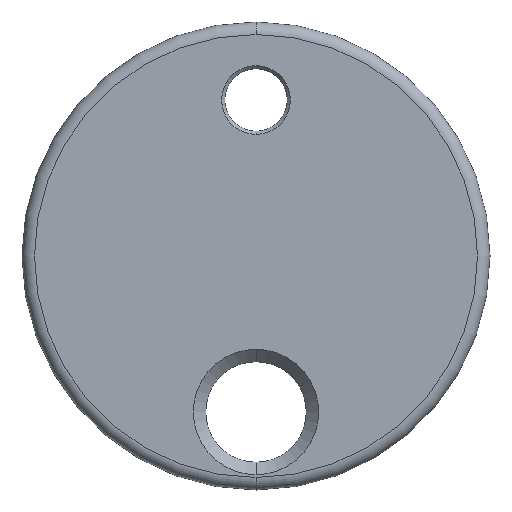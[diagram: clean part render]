
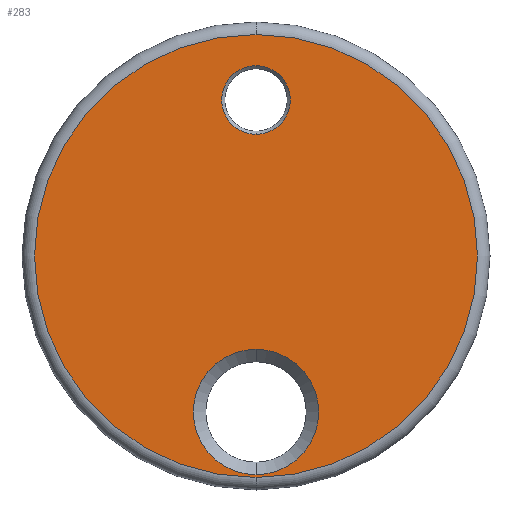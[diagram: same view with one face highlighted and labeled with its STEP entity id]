
A CAD part, front view. The second image highlights one B-rep face of the part: STEP entity #283.
In plain terms, the highlighted planar face has unit normal (0, -1, 0).
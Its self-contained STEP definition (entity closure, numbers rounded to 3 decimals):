
#10 = VERTEX_POINT ( 'NONE', #55 ) ;
#15 = AXIS2_PLACEMENT_3D ( 'NONE', #138, #474, #190 ) ;
#20 = CARTESIAN_POINT ( 'NONE',  ( 0., 0., -25. ) ) ;
#25 = AXIS2_PLACEMENT_3D ( 'NONE', #410, #69, #415 ) ;
#39 = DIRECTION ( 'NONE',  ( 0., -1., 0. ) ) ;
#43 = VERTEX_POINT ( 'NONE', #115 ) ;
#47 = EDGE_LOOP ( 'NONE', ( #403, #172 ) ) ;
#55 = CARTESIAN_POINT ( 'NONE',  ( 0., 0., -14.95 ) ) ;
#69 = DIRECTION ( 'NONE',  ( 0., 1., 0. ) ) ;
#70 = CARTESIAN_POINT ( 'NONE',  ( 0., 0., 35.5 ) ) ;
#86 = FACE_BOUND ( 'NONE', #226, .T. ) ;
#92 = CIRCLE ( 'NONE', #117, 5.5 ) ;
#96 = EDGE_LOOP ( 'NONE', ( #424, #309 ) ) ;
#115 = CARTESIAN_POINT ( 'NONE',  ( 0., 0., 19.5 ) ) ;
#117 = AXIS2_PLACEMENT_3D ( 'NONE', #340, #39, #385 ) ;
#138 = CARTESIAN_POINT ( 'NONE',  ( 0., 0., 0. ) ) ;
#142 = CARTESIAN_POINT ( 'NONE',  ( 0., 0., 25. ) ) ;
#150 = AXIS2_PLACEMENT_3D ( 'NONE', #142, #481, #197 ) ;
#172 = ORIENTED_EDGE ( 'NONE', *, *, #398, .T. ) ;
#190 = DIRECTION ( 'NONE',  ( 0., 0., 1. ) ) ;
#191 = EDGE_CURVE ( 'NONE', #321, #10, #613, .T. ) ;
#192 = CARTESIAN_POINT ( 'NONE',  ( 0., 0., 30.5 ) ) ;
#193 = CARTESIAN_POINT ( 'NONE',  ( 0., 0., -35.5 ) ) ;
#197 = DIRECTION ( 'NONE',  ( 0., 0., -1. ) ) ;
#226 = EDGE_LOOP ( 'NONE', ( #609, #399 ) ) ;
#235 = VERTEX_POINT ( 'NONE', #70 ) ;
#242 = FACE_OUTER_BOUND ( 'NONE', #47, .T. ) ;
#251 = CIRCLE ( 'NONE', #15, 35.5 ) ;
#278 = CARTESIAN_POINT ( 'NONE',  ( 0., 0., -35.05 ) ) ;
#282 = CARTESIAN_POINT ( 'NONE',  ( 0., 0., -25. ) ) ;
#283 = ADVANCED_FACE ( 'NONE', ( #86, #242, #337 ), #365, .F. ) ;
#309 = ORIENTED_EDGE ( 'NONE', *, *, #561, .F. ) ;
#311 = DIRECTION ( 'NONE',  ( 0., -1., 0. ) ) ;
#320 = CIRCLE ( 'NONE', #325, 35.5 ) ;
#321 = VERTEX_POINT ( 'NONE', #278 ) ;
#325 = AXIS2_PLACEMENT_3D ( 'NONE', #525, #311, #425 ) ;
#326 = DIRECTION ( 'NONE',  ( 0., 0., 1. ) ) ;
#337 = FACE_BOUND ( 'NONE', #96, .T. ) ;
#340 = CARTESIAN_POINT ( 'NONE',  ( 0., 0., 25. ) ) ;
#365 = PLANE ( 'NONE',  #25 ) ;
#385 = DIRECTION ( 'NONE',  ( 0., 0., -1. ) ) ;
#398 = EDGE_CURVE ( 'NONE', #569, #235, #320, .T. ) ;
#399 = ORIENTED_EDGE ( 'NONE', *, *, #426, .T. ) ;
#403 = ORIENTED_EDGE ( 'NONE', *, *, #491, .T. ) ;
#404 = AXIS2_PLACEMENT_3D ( 'NONE', #20, #412, #461 ) ;
#407 = VERTEX_POINT ( 'NONE', #192 ) ;
#410 = CARTESIAN_POINT ( 'NONE',  ( 0., 0., 0. ) ) ;
#412 = DIRECTION ( 'NONE',  ( 0., 1., 0. ) ) ;
#415 = DIRECTION ( 'NONE',  ( 0., 0., 1. ) ) ;
#420 = AXIS2_PLACEMENT_3D ( 'NONE', #282, #604, #326 ) ;
#424 = ORIENTED_EDGE ( 'NONE', *, *, #548, .F. ) ;
#425 = DIRECTION ( 'NONE',  ( 0., 0., 1. ) ) ;
#426 = EDGE_CURVE ( 'NONE', #10, #321, #510, .T. ) ;
#461 = DIRECTION ( 'NONE',  ( 0., 0., 1. ) ) ;
#474 = DIRECTION ( 'NONE',  ( 0., -1., 0. ) ) ;
#481 = DIRECTION ( 'NONE',  ( 0., -1., 0. ) ) ;
#491 = EDGE_CURVE ( 'NONE', #235, #569, #251, .T. ) ;
#510 = CIRCLE ( 'NONE', #420, 10.05 ) ;
#525 = CARTESIAN_POINT ( 'NONE',  ( 0., 0., 0. ) ) ;
#548 = EDGE_CURVE ( 'NONE', #43, #407, #92, .T. ) ;
#561 = EDGE_CURVE ( 'NONE', #407, #43, #600, .T. ) ;
#569 = VERTEX_POINT ( 'NONE', #193 ) ;
#600 = CIRCLE ( 'NONE', #150, 5.5 ) ;
#604 = DIRECTION ( 'NONE',  ( 0., 1., 0. ) ) ;
#609 = ORIENTED_EDGE ( 'NONE', *, *, #191, .T. ) ;
#613 = CIRCLE ( 'NONE', #404, 10.05 ) ;
